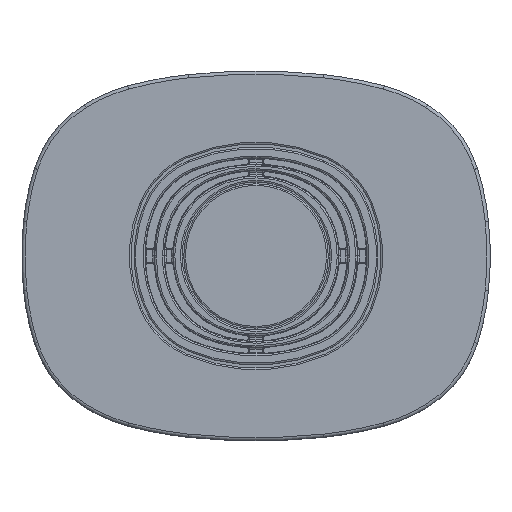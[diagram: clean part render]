
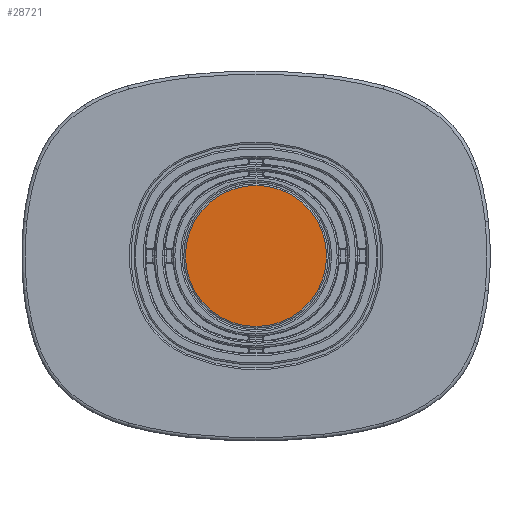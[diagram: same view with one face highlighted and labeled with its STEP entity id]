
A CAD part, top view. The second image highlights one B-rep face of the part: STEP entity #28721.
In plain terms, the highlighted planar face has unit normal (0, 0, 1).
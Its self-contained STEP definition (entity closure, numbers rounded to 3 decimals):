
#2473=CIRCLE('',#35616,86.2);
#6866=ORIENTED_EDGE('',*,*,#14584,.T.);
#14584=EDGE_CURVE('',#18586,#18586,#2473,.T.);
#18586=VERTEX_POINT('',#52403);
#24488=EDGE_LOOP('',(#6866));
#26368=FACE_BOUND('',#24488,.T.);
#27863=PLANE('',#35615);
#28721=ADVANCED_FACE('',(#26368),#27863,.T.);
#35615=AXIS2_PLACEMENT_3D('',#52401,#40404,#40405);
#35616=AXIS2_PLACEMENT_3D('',#52402,#40406,#40407);
#40404=DIRECTION('',(0.,0.,1.));
#40405=DIRECTION('',(1.,0.,0.));
#40406=DIRECTION('',(0.,0.,1.));
#40407=DIRECTION('',(1.,0.,0.));
#52401=CARTESIAN_POINT('',(-14.985,123.28,859.51));
#52402=CARTESIAN_POINT('',(0.,135.025,859.51));
#52403=CARTESIAN_POINT('',(86.2,135.025,859.51));
